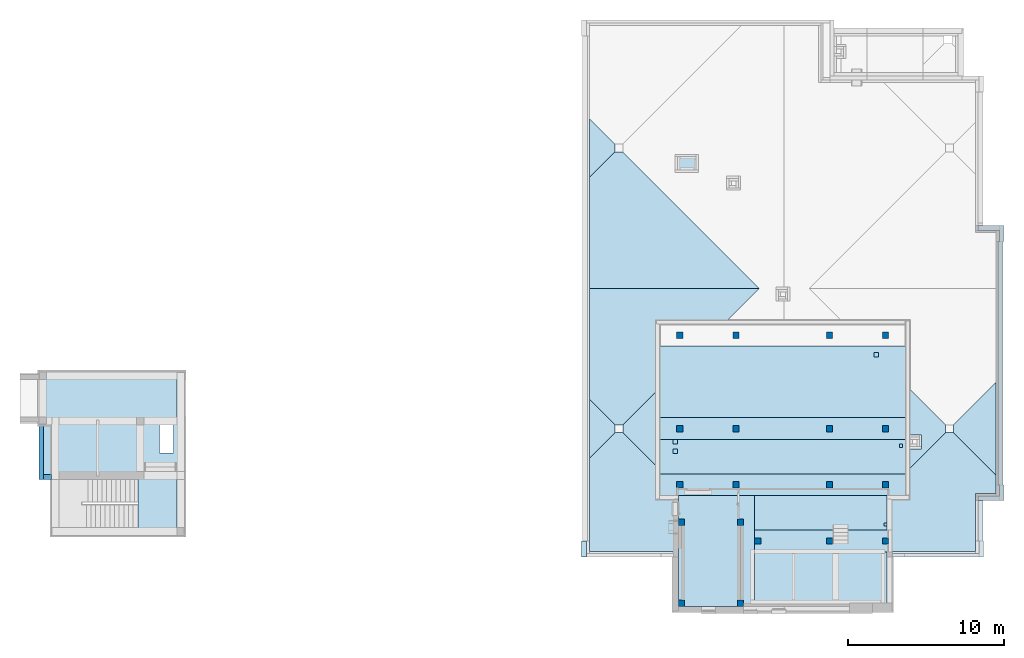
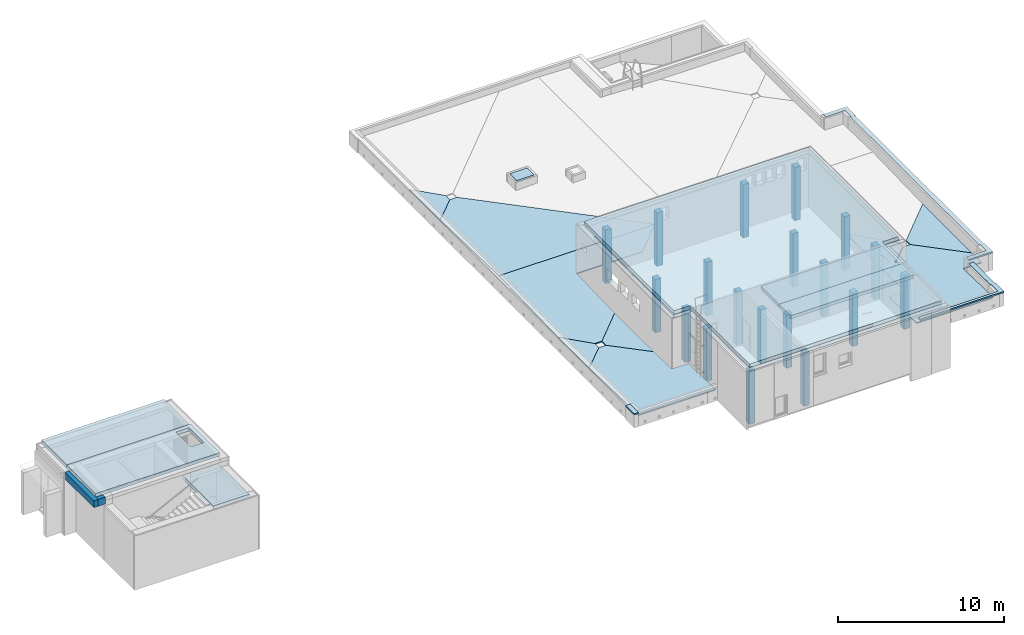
# One storey, part 1 of 17: 26 slabs, 19 columns, 2 beams, 7 openings, 1 element without a shape of its own.
"""IFC4 building model written with IfcOpenShell, lengths in metres."""

from ifc_helpers import new_model, entity, si_unit, converted_unit, derived_unit, frame, frame_2d, origin, origin_with_axes, place, context, subcontext, project, spatial, polyline, rectangle, circle, outline, extrude, material, layer, layer_set, layer_usage, element, aggregate, save


model = new_model("IFC4")

# Units and contexts
model_context = context("Model", 3, precision=1e-05, world=origin())
body_context = subcontext(model_context, "Body", "Model", "MODEL_VIEW")
ifc_project = project(units=[si_unit("LENGTHUNIT", "METRE"), si_unit("AREAUNIT", "SQUARE_METRE"), si_unit("VOLUMEUNIT", "CUBIC_METRE"), si_unit("MASSUNIT", "GRAM", prefix="KILO"), converted_unit("PLANEANGLEUNIT", "DEGREE", entity("IfcPlaneAngleMeasure", 0.0174532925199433), si_unit("PLANEANGLEUNIT", "RADIAN"), dimensions=[0, 0, 0, 0, 0, 0, 0]), derived_unit("THERMALTRANSMITTANCEUNIT", [(si_unit("POWERUNIT", "WATT"), 1), (si_unit("THERMODYNAMICTEMPERATUREUNIT", "KELVIN"), -1), (si_unit("LENGTHUNIT", "METRE"), -2)]), derived_unit("VOLUMETRICFLOWRATEUNIT", [(si_unit("LENGTHUNIT", "METRE"), 3), (converted_unit("TIMEUNIT", "hour", entity("IfcTimeMeasure", 3600.0), si_unit("TIMEUNIT", "SECOND"), dimensions=[0, 0, 1, 0, 0, 0, 0]), -1), (si_unit("LENGTHUNIT", "METRE"), -1)])], contexts=[model_context])

# Site, building, storey
site_placement = place(None, origin())
site = spatial("IfcSite", under=ifc_project, at=site_placement, Name="3. ASŘ", CompositionType="ELEMENT")
building_placement = place(site_placement, origin())
building = spatial("IfcBuilding", under=site, at=building_placement, Name="Pavilon C", CompositionType="ELEMENT")
storey_placement = place(building_placement, frame((0.0, 0.0, 13.8)))
storey = spatial("IfcBuildingStorey", under=building, at=storey_placement, Name="Půdorys 5.NP", CompositionType="ELEMENT", Elevation=13.8)

# Columns
ifc_material_1 = material(Name="ZELEZOBETONOVÁ KCE")
column_1_placement = place(storey_placement, frame((40.55, 0.2, -0.1)))
element("IfcColumn", 1, at=column_1_placement, inside=storey, material=ifc_material_1, PredefinedType="COLUMN", context=body_context, shape_type="SweptSolid", body=[
    extrude(rectangle(XDim=0.4, YDim=0.4, at=frame_2d((-0.2, -0.2), x_axis=(-1.0, 1.4210854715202e-16))), origin_with_axes(), (0.0, 0.0, 1.0), 3.95),
])
ifc_material_2 = material(Name="ZELEZOBETONOVÁ KCE")
column_2_placement = place(storey_placement, frame((35.95, 0.2, -0.1)))
element("IfcColumn", 2, at=column_2_placement, inside=storey, material=ifc_material_2, PredefinedType="COLUMN", context=body_context, shape_type="SweptSolid", body=[
    extrude(rectangle(XDim=0.4, YDim=0.4, at=frame_2d((-0.2, -0.2), x_axis=(-1.0, 1.4210854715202e-16))), origin_with_axes(), (0.0, 0.0, 1.0), 3.95),
])
ifc_material_3 = material(Name="ZELEZOBETONOVÁ KCE")
column_3_placement = place(storey_placement, frame((30.95, 7.4, -0.1)))
element("IfcColumn", 3, at=column_3_placement, inside=storey, material=ifc_material_3, PredefinedType="COLUMN", context=body_context, shape_type="SweptSolid", body=[
    extrude(rectangle(XDim=0.4, YDim=0.4, at=frame_2d((-0.2, -0.2), x_axis=(-1.0, 0.0))), origin_with_axes(), (0.0, 0.0, 1.0), 3.95),
])
ifc_material_4 = material(Name="ZELEZOBETONOVÁ KCE")
column_4_placement = place(storey_placement, frame((34.55, 7.4, -0.1)))
element("IfcColumn", 4, at=column_4_placement, inside=storey, material=ifc_material_4, PredefinedType="COLUMN", context=body_context, shape_type="SweptSolid", body=[
    extrude(rectangle(XDim=0.4, YDim=0.4, at=frame_2d((-0.2, -0.2), x_axis=(-1.0, 0.0))), origin_with_axes(), (0.0, 0.0, 1.0), 3.95),
])
ifc_material_5 = material(Name="ZELEZOBETONOVÁ KCE")
column_5_placement = place(storey_placement, frame((40.55, 7.39999999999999, -0.1)))
element("IfcColumn", 5, at=column_5_placement, inside=storey, material=ifc_material_5, PredefinedType="COLUMN", context=body_context, shape_type="SweptSolid", body=[
    extrude(rectangle(XDim=0.4, YDim=0.4, at=frame_2d((-0.2, -0.2), x_axis=(-1.0, 0.0))), origin_with_axes(), (0.0, 0.0, 1.0), 3.95),
])
ifc_material_6 = material(Name="ZELEZOBETONOVÁ KCE")
column_6_placement = place(storey_placement, frame((44.15, 7.39999999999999, -0.1)))
element("IfcColumn", 6, at=column_6_placement, inside=storey, material=ifc_material_6, PredefinedType="COLUMN", context=body_context, shape_type="SweptSolid", body=[
    extrude(rectangle(XDim=0.4, YDim=0.4, at=frame_2d((-0.2, -0.2), x_axis=(-1.0, 0.0))), origin_with_axes(), (0.0, 0.0, 1.0), 3.95),
])
ifc_material_7 = material(Name="ZELEZOBETONOVÁ KCE")
column_7_placement = place(storey_placement, frame((44.15, 13.4, -0.1)))
element("IfcColumn", 7, at=column_7_placement, inside=storey, material=ifc_material_7, PredefinedType="COLUMN", context=body_context, shape_type="SweptSolid", body=[
    extrude(rectangle(XDim=0.4, YDim=0.4, at=frame_2d((-0.2, -0.2), x_axis=(-1.0, 0.0))), origin_with_axes(), (0.0, 0.0, 1.0), 3.95),
])
ifc_material_8 = material(Name="ZELEZOBETONOVÁ KCE")
column_8_placement = place(storey_placement, frame((40.55, 13.4, -0.1)))
element("IfcColumn", 8, at=column_8_placement, inside=storey, material=ifc_material_8, PredefinedType="COLUMN", context=body_context, shape_type="SweptSolid", body=[
    extrude(rectangle(XDim=0.4, YDim=0.4, at=frame_2d((-0.2, -0.2), x_axis=(-1.0, 0.0))), origin_with_axes(), (0.0, 0.0, 1.0), 3.95),
])
ifc_material_9 = material(Name="ZELEZOBETONOVÁ KCE")
column_9_placement = place(storey_placement, frame((40.55, 3.79999999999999, -0.1)))
element("IfcColumn", 9, at=column_9_placement, inside=storey, material=ifc_material_9, PredefinedType="COLUMN", context=body_context, shape_type="SweptSolid", body=[
    extrude(rectangle(XDim=0.4, YDim=0.4, at=frame_2d((-0.2, -0.2), x_axis=(-1.0, 0.0))), origin_with_axes(), (0.0, 0.0, 1.0), 3.95),
])
ifc_material_10 = material(Name="ZELEZOBETONOVÁ KCE")
column_10_placement = place(storey_placement, frame((44.15, 3.79999999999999, -0.1)))
element("IfcColumn", 10, at=column_10_placement, inside=storey, material=ifc_material_10, PredefinedType="COLUMN", context=body_context, shape_type="SweptSolid", body=[
    extrude(rectangle(XDim=0.4, YDim=0.4, at=frame_2d((-0.2, -0.2), x_axis=(-1.0, 0.0))), origin_with_axes(), (0.0, 0.0, 1.0), 3.95),
])
ifc_material_11 = material(Name="ZELEZOBETONOVÁ KCE")
column_11_placement = place(storey_placement, frame((34.55, 3.8, -0.1)))
element("IfcColumn", 11, at=column_11_placement, inside=storey, material=ifc_material_11, PredefinedType="COLUMN", context=body_context, shape_type="SweptSolid", body=[
    extrude(rectangle(XDim=0.4, YDim=0.4, at=frame_2d((-0.2, -0.2), x_axis=(-1.0, 0.0))), origin_with_axes(), (0.0, 0.0, 1.0), 3.95),
])
ifc_material_12 = material(Name="ZELEZOBETONOVÁ KCE")
column_12_placement = place(storey_placement, frame((30.95, 3.8, -0.1)))
element("IfcColumn", 12, at=column_12_placement, inside=storey, material=ifc_material_12, PredefinedType="COLUMN", context=body_context, shape_type="SweptSolid", body=[
    extrude(rectangle(XDim=0.4, YDim=0.4, at=frame_2d((-0.2, -0.2), x_axis=(-1.0, 0.0))), origin_with_axes(), (0.0, 0.0, 1.0), 3.95),
])
ifc_material_13 = material(Name="ZELEZOBETONOVÁ KCE")
column_13_placement = place(storey_placement, frame((31.05, 1.4, -0.1)))
element("IfcColumn", 13, at=column_13_placement, inside=storey, material=ifc_material_13, PredefinedType="COLUMN", context=body_context, shape_type="SweptSolid", body=[
    extrude(rectangle(XDim=0.4, YDim=0.4, at=frame_2d((-0.2, -0.2), x_axis=(-1.0, 0.0))), origin_with_axes(), (0.0, 0.0, 1.0), 3.95),
])
ifc_material_14 = material(Name="ZELEZOBETONOVÁ KCE")
column_14_placement = place(storey_placement, frame((34.85, 1.4, -0.1)))
element("IfcColumn", 14, at=column_14_placement, inside=storey, material=ifc_material_14, PredefinedType="COLUMN", context=body_context, shape_type="SweptSolid", body=[
    extrude(rectangle(XDim=0.4, YDim=0.4, at=frame_2d((-0.2, -0.2), x_axis=(-1.0, 0.0))), origin_with_axes(), (0.0, 0.0, 1.0), 3.95),
])
ifc_material_15 = material(Name="ZELEZOBETONOVÁ KCE")
column_15_placement = place(storey_placement, frame((31.05, -3.79999999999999, -0.1)))
element("IfcColumn", 15, at=column_15_placement, inside=storey, material=ifc_material_15, PredefinedType="COLUMN", context=body_context, shape_type="SweptSolid", body=[
    extrude(rectangle(XDim=0.4, YDim=0.4, at=frame_2d((-0.2, -0.2), x_axis=(-1.0, 0.0))), origin_with_axes(), (0.0, 0.0, 1.0), 3.95),
])
ifc_material_16 = material(Name="ZELEZOBETONOVÁ KCE")
column_16_placement = place(storey_placement, frame((34.85, -3.79999999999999, -0.1)))
element("IfcColumn", 16, at=column_16_placement, inside=storey, material=ifc_material_16, PredefinedType="COLUMN", context=body_context, shape_type="SweptSolid", body=[
    extrude(rectangle(XDim=0.4, YDim=0.4, at=frame_2d((-0.2, -0.2), x_axis=(-1.0, 0.0))), origin_with_axes(), (0.0, 0.0, 1.0), 3.95),
])
ifc_material_17 = material(Name="ZELEZOBETONOVÁ KCE")
column_17_placement = place(storey_placement, frame((44.15, 0.199999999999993, -0.1)))
element("IfcColumn", 17, at=column_17_placement, inside=storey, material=ifc_material_17, PredefinedType="COLUMN", context=body_context, shape_type="SweptSolid", body=[
    extrude(rectangle(XDim=0.4, YDim=0.4, at=frame_2d((-0.2, -0.2), x_axis=(-1.0, 1.4210854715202e-16))), origin_with_axes(), (0.0, 0.0, 1.0), 3.95),
])
ifc_material_18 = material(Name="ZELEZOBETONOVÁ KCE")
column_18_placement = place(storey_placement, frame((34.55, 13.4, -0.1)))
element("IfcColumn", 18, at=column_18_placement, inside=storey, material=ifc_material_18, PredefinedType="COLUMN", context=body_context, shape_type="SweptSolid", body=[
    extrude(rectangle(XDim=0.4, YDim=0.4, at=frame_2d((-0.2, -0.2), x_axis=(-1.0, 0.0))), origin_with_axes(), (0.0, 0.0, 1.0), 3.95),
])
ifc_material_19 = material(Name="ZELEZOBETONOVÁ KCE")
column_19_placement = place(storey_placement, frame((30.95, 13.4, -0.1)))
element("IfcColumn", 19, at=column_19_placement, inside=storey, material=ifc_material_19, PredefinedType="COLUMN", context=body_context, shape_type="SweptSolid", body=[
    extrude(rectangle(XDim=0.4, YDim=0.4, at=frame_2d((-0.2, -0.2), x_axis=(-1.0, 0.0))), origin_with_axes(), (0.0, 0.0, 1.0), 3.95),
])

# Beams
beam_1_placement = place(storey_placement, frame((-10.075, 3.95, 3.2)))
element("IfcBeam", 20, at=beam_1_placement, inside=storey, PredefinedType="NOTDEFINED", context=body_context, shape_type="SweptSolid", body=[
    extrude(rectangle(XDim=0.3, YDim=0.5, at=frame_2d((0.15, 0.25), x_axis=(1.0, 0.0))), frame((0.0, 0.0, 0.0), z_axis=(1.0, 0.0, 0.0), x_axis=(0.0, 1.0, 0.0)), (0.0, 0.0, 1.0), 0.5),
])
beam_2_placement = place(storey_placement, frame((-10.375, 7.45, 3.2), z_axis=(0.0, 0.0, 1.0), x_axis=(0.0, -1.0, 0.0)))
element("IfcBeam", 21, at=beam_2_placement, inside=storey, PredefinedType="NOTDEFINED", context=body_context, shape_type="SweptSolid", body=[
    extrude(rectangle(XDim=0.3, YDim=0.5, at=frame_2d((0.15, 0.25), x_axis=(1.0, 0.0))), frame((0.0, 0.0, 0.0), z_axis=(1.0, 0.0, 0.0), x_axis=(0.0, 1.0, 0.0)), (0.0, 0.0, 1.0), 3.5),
])

# Slabs
ifc_material_20 = material(Name="RZT")
slab_1_placement = place(storey_placement, frame((35.55, -0.700000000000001, 3.85)))
element("IfcSlab", 22, at=slab_1_placement, inside=storey, material=ifc_material_20, PredefinedType="FLOOR", context=body_context, shape_type="SweptSolid", body=[
    extrude(rectangle(XDim=1.4, YDim=8.6, at=frame_2d((-4.3, 0.700000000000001), x_axis=(0.0, 1.0))), frame((8.6, 0.0, 0.0), z_axis=(0.0, 0.0, 1.0), x_axis=(1.0, 0.0, 0.0)), (0.0, 0.0, 1.0), 0.25),
])
ifc_material_21 = material(Name="PZD")
slab_2_placement = place(storey_placement, frame((35.55, -4.19999999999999, 3.85)))
element("IfcSlab", 23, at=slab_2_placement, inside=storey, material=ifc_material_21, PredefinedType="FLOOR", context=body_context, shape_type="SweptSolid", body=[
    extrude(rectangle(XDim=8.5, YDim=3.49999999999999, at=frame_2d((4.25, 1.75), x_axis=(1.0, 0.0))), origin_with_axes(), (0.0, 0.0, 1.0), 0.25),
])
ifc_material_22 = material(Name="DZH")
slab_3_placement = place(storey_placement, frame((30.65, -4.2, 3.85)))
element("IfcSlab", 24, at=slab_3_placement, inside=storey, material=ifc_material_22, PredefinedType="FLOOR", context=body_context, shape_type="SweptSolid", body=[
    extrude(rectangle(XDim=7.09999999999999, YDim=3.89999999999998, at=frame_2d((-1.94999999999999, 3.54999999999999), x_axis=(0.0, 1.0))), frame((3.89999999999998, 6.3664629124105e-15, 0.0), z_axis=(0.0, 0.0, 1.0), x_axis=(1.0, 0.0, 0.0)), (0.0, 0.0, 1.0), 0.25),
])
ifc_material_23 = material(Name="VĚNEC")
slab_4_placement = place(storey_placement, frame((34.55, -4.19999999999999, 3.85)))
element("IfcSlab", 25, at=slab_4_placement, inside=storey, material=ifc_material_23, PredefinedType="FLOOR", context=body_context, shape_type="SweptSolid", body=[
    extrude(rectangle(XDim=7.09999999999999, YDim=1.00000000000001, at=frame_2d((-0.500000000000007, 3.54999999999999), x_axis=(0.0, 1.0))), frame((1.00000000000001, 1.81898940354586e-15, 0.0), z_axis=(0.0, 0.0, 1.0), x_axis=(1.0, 0.0, 0.0)), (0.0, 0.0, 1.0), 0.25),
])

# Slab, opening
ifc_material_24 = material(Name="PZD")
slab_5_placement = place(storey_placement, frame((29.45, 7.9, 3.85)))
slab_5 = element("IfcSlab", 26, at=slab_5_placement, inside=storey, material=ifc_material_24, PredefinedType="FLOOR", context=body_context, shape_type="SweptSolid", body=[
    extrude(rectangle(XDim=4.6, YDim=15.8, at=frame_2d((-7.9, 2.3), x_axis=(0.0, 1.0))), frame((15.8, 0.0, 0.0), z_axis=(0.0, 0.0, 1.0), x_axis=(1.0, 0.0, 0.0)), (0.0, 0.0, 1.0), 0.25),
])
opening_1_placement = place(slab_5_placement, frame((13.75, 3.9, 0.0)))
element("IfcOpeningElement", 27, at=opening_1_placement, cuts=slab_5, Name="Prostup deskou", ObjectType="Opening", context=body_context, shape_type="SweptSolid", body=[
    extrude(rectangle(XDim=0.3, YDim=0.3, at=frame_2d((7.27595761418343e-15, 0.0), x_axis=(0.0, -1.0))), frame((0.149999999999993, 0.15, 0.0), z_axis=(0.0, 0.0, 1.0), x_axis=(1.0, 0.0, 0.0)), (0.0, 0.0, 1.0), 0.25),
])

ifc_material_25 = material(Name="PZD")
slab_6_placement = place(storey_placement, frame((35.55, 0.699999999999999, 3.85)))
slab_6 = element("IfcSlab", 28, at=slab_6_placement, inside=storey, material=ifc_material_25, PredefinedType="FLOOR", context=body_context, shape_type="SweptSolid", body=[
    extrude(rectangle(XDim=2.2, YDim=8.5, at=frame_2d((-4.25, 1.1), x_axis=(0.0, 1.0))), frame((8.5, 0.0, 0.0), z_axis=(0.0, 0.0, 1.0), x_axis=(1.0, 0.0, 0.0)), (0.0, 0.0, 1.0), 0.25),
])
opening_2_placement = place(slab_6_placement, frame((8.3, 0.249999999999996, 0.0)))
element("IfcOpeningElement", 29, at=opening_2_placement, cuts=slab_6, Name="Prostup deskou", ObjectType="Opening", context=body_context, shape_type="SweptSolid", body=[
    extrude(rectangle(XDim=0.2, YDim=0.2, at=frame_2d((7.27595761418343e-15, 0.0), x_axis=(0.0, -1.0))), frame((0.0999999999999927, 0.1, 0.0), z_axis=(0.0, 0.0, 1.0), x_axis=(1.0, 0.0, 0.0)), (0.0, 0.0, 1.0), 0.25),
])

# Slab
ifc_material_26 = material(Name="RZT")
slab_7_placement = place(storey_placement, frame((29.45, 6.49999999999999, 3.85)))
element("IfcSlab", 30, at=slab_7_placement, inside=storey, material=ifc_material_26, PredefinedType="FLOOR", context=body_context, shape_type="SweptSolid", body=[
    extrude(rectangle(XDim=1.4, YDim=15.8, at=frame_2d((-7.9, 0.700000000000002), x_axis=(0.0, 1.0))), frame((15.8, 0.0, 0.0), z_axis=(0.0, 0.0, 1.0), x_axis=(1.0, 0.0, 0.0)), (0.0, 0.0, 1.0), 0.25),
])

# Slab, openings
ifc_material_27 = material(Name="PZD")
slab_8_placement = place(storey_placement, frame((29.45, 4.3, 3.85)))
slab_8 = element("IfcSlab", 31, at=slab_8_placement, inside=storey, material=ifc_material_27, PredefinedType="FLOOR", context=body_context, shape_type="SweptSolid", body=[
    extrude(rectangle(XDim=2.2, YDim=15.8, at=frame_2d((-7.9, 1.1), x_axis=(0.0, 1.0))), frame((15.8, 9.09494701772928e-16, 0.0), z_axis=(0.0, 0.0, 1.0), x_axis=(1.0, 0.0, 0.0)), (0.0, 0.0, 1.0), 0.25),
])
opening_3_placement = place(slab_8_placement, frame((15.4, 1.7, 0.0)))
element("IfcOpeningElement", 32, at=opening_3_placement, cuts=slab_8, Name="Prostup deskou", ObjectType="Opening", context=body_context, shape_type="SweptSolid", body=[
    extrude(rectangle(XDim=0.2, YDim=0.2, at=frame_2d((7.27595761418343e-15, 9.09494701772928e-16), x_axis=(0.0, -1.0))), frame((0.0999999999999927, 0.0999999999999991, 0.0), z_axis=(0.0, 0.0, 1.0), x_axis=(1.0, 0.0, 0.0)), (0.0, 0.0, 1.0), 0.25),
])
opening_4_placement = place(slab_8_placement, frame((0.85, 1.9, 0.0)))
element("IfcOpeningElement", 33, at=opening_4_placement, cuts=slab_8, Name="Prostup deskou", ObjectType="Opening", context=body_context, shape_type="SweptSolid", body=[
    extrude(rectangle(XDim=0.3, YDim=0.3, at=frame_2d((7.27595761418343e-15, -9.09494701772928e-16), x_axis=(0.0, -1.0))), frame((0.149999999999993, 0.150000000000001, 0.0), z_axis=(0.0, 0.0, 1.0), x_axis=(1.0, 0.0, 0.0)), (0.0, 0.0, 1.0), 0.25),
])
opening_5_placement = place(slab_8_placement, frame((0.85, 1.3, 0.0)))
element("IfcOpeningElement", 34, at=opening_5_placement, cuts=slab_8, Name="Prostup deskou", ObjectType="Opening", context=body_context, shape_type="SweptSolid", body=[
    extrude(rectangle(XDim=0.3, YDim=0.3, at=frame_2d((7.27595761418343e-15, -9.09494701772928e-16), x_axis=(0.0, -1.0))), frame((0.149999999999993, 0.150000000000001, 0.0), z_axis=(0.0, 0.0, 1.0), x_axis=(1.0, 0.0, 0.0)), (0.0, 0.0, 1.0), 0.25),
])

# Slabs
ifc_material_28 = material(Name="ZELEZOBETONOVÁ KCE")
slab_9_placement = place(storey_placement, frame((-4.02489999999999, 0.500000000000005, 2.95)))
element("IfcSlab", 35, at=slab_9_placement, inside=storey, material=ifc_material_28, PredefinedType="FLOOR", context=body_context, shape_type="SweptSolid", body=[
    extrude(rectangle(XDim=2.4999, YDim=3.75, at=frame_2d((1.24995, 1.875), x_axis=(1.0, 0.0))), origin_with_axes(), (0.0, 0.0, 1.0), 0.25),
])
ifc_material_29 = material(Name="ZELEZOBETONOVÁ KCE")
slab_10_placement = place(storey_placement, frame((-10.075, 7.75, 3.7)))
element("IfcSlab", 36, at=slab_10_placement, inside=storey, material=ifc_material_29, PredefinedType="FLOOR", context=body_context, shape_type="SweptSolid", body=[
    extrude(rectangle(XDim=8.54999999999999, YDim=3.05000000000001, at=frame_2d((4.275, 1.525), x_axis=(1.0, 0.0))), origin_with_axes(), (0.0, 0.0, 1.0), 0.25),
])

# Slab, opening
ifc_material_30 = material(Name="ZELEZOBETONOVÁ KCE")
slab_11_placement = place(storey_placement, frame((-10.075, 4.25, 3.7)))
slab_11 = element("IfcSlab", 37, at=slab_11_placement, inside=storey, material=ifc_material_30, PredefinedType="FLOOR", context=body_context, shape_type="SweptSolid", body=[
    extrude(rectangle(XDim=8.64999999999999, YDim=3.5, at=frame_2d((-4.325, -1.75), x_axis=(-1.0, 0.0))), frame((8.64999999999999, 3.5, 0.0), z_axis=(0.0, 0.0, 1.0), x_axis=(1.0, 0.0, 0.0)), (0.0, 0.0, 1.0), 0.25),
])
opening_6_placement = place(slab_11_placement, frame((7.44999999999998, 1.4, 0.0)))
element("IfcOpeningElement", 38, at=opening_6_placement, cuts=slab_11, Name="Prostup deskou", ObjectType="Opening", context=body_context, shape_type="SweptSolid", body=[
    extrude(rectangle(XDim=1.8, YDim=0.9, at=frame_2d((-2.27373675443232e-16, -9.09494701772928e-16), x_axis=(0.0, -1.0))), frame((0.45, 0.900000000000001, 0.0), z_axis=(0.0, 0.0, 1.0), x_axis=(1.0, 0.0, 0.0)), (0.0, 0.0, 1.0), 0.25),
])

ifc_material_31 = material(Name="RZT")
slab_12_placement = place(storey_placement, frame((29.45, 2.89999999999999, 3.85)))
slab_12 = element("IfcSlab", 39, at=slab_12_placement, inside=storey, material=ifc_material_31, PredefinedType="FLOOR", context=body_context, shape_type="SweptSolid", body=[
    extrude(rectangle(XDim=1.4, YDim=15.8, at=frame_2d((-7.9, 0.700000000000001), x_axis=(0.0, 1.0))), frame((15.8, 0.0, 0.0), z_axis=(0.0, 0.0, 1.0), x_axis=(1.0, 0.0, 0.0)), (0.0, 0.0, 1.0), 0.25),
])
opening_7_placement = place(slab_12_placement, frame((10.3253095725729, 0.625309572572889, 0.286060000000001)))
element("IfcOpeningElement", 40, at=opening_7_placement, cuts=slab_12, Name="Prostup deskou", ObjectType="Opening", context=body_context, shape_type="SweptSolid", body=[
    extrude(circle(Radius=0.0750000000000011, at=frame_2d((7.27595761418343e-15, 0.0), x_axis=(1.0, 0.0))), frame((0.0746904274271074, 0.0746904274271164, 0.0), z_axis=(0.0, 0.0, 1.0), x_axis=(1.0, 0.0, 0.0)), (0.0, 0.0, 1.0), 0.00240000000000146),
])

# Roof, slabs
roof_placement = place(storey_placement, frame((0.0, 0.0, -13.8)))
roof = element("IfcRoof", 41, at=roof_placement, inside=storey, PredefinedType="NOTDEFINED")
ifc_material_32 = material(Name="ASFALTOVÁ HYDROIZOLACE")
ifc_layer_1 = layer(ifc_material_32, 0.01)
ifc_material_33 = material(Name="KAČÍREK")
ifc_layer_2 = layer(ifc_material_33, 0.06)
ifc_layer_set_1 = layer_set([ifc_layer_1, ifc_layer_2])
ifc_layer_usage_1 = layer_usage(ifc_layer_set_1, "AXIS3", "POSITIVE", 0.0)
slab_13_placement = place(roof_placement, frame((24.97, 5.32999999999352, 13.98)))
slab_13 = element("IfcSlab", 42, at=slab_13_placement, material=ifc_layer_usage_1, PredefinedType="ROOF", context=body_context, shape_type="SweptSolid", body=[
    extrude(outline(polyline([(-1.87000000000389, -0.810364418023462), (1.87000000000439, -0.810364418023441), (0.249999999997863, 0.810364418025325), (-0.249999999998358, 0.810364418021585), (-1.87000000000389, -0.810364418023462)])), frame((0.809999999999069, 1.87000000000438, 0.0243000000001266), z_axis=(0.0299865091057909, -2.14142305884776e-16, 0.999550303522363), x_axis=(-7.14128827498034e-15, -1.0, 0.0)), (0.0, -0.0299865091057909, 0.999550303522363), 0.0700314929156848),
])
ifc_material_34 = material(Name="ASFALTOVÁ HYDROIZOLACE")
ifc_layer_3 = layer(ifc_material_34, 0.01)
ifc_material_35 = material(Name="KAČÍREK")
ifc_layer_4 = layer(ifc_material_35, 0.06)
ifc_layer_set_2 = layer_set([ifc_layer_3, ifc_layer_4])
ifc_layer_usage_2 = layer_usage(ifc_layer_set_2, "AXIS3", "POSITIVE", 0.0)
slab_14_placement = place(roof_placement, frame((24.97, 7.44999999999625, 13.9800000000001)))
slab_14 = element("IfcSlab", 43, at=slab_14_placement, material=ifc_layer_usage_2, PredefinedType="ROOF", context=body_context, shape_type="SweptSolid", body=[
    extrude(outline(polyline([(-0.243750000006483, 2.21974821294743), (-0.243750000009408, -2.3723168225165), (-4.83374999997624, -2.37231682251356), (-6.88374999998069, -4.42323911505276), (3.98624999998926, -4.42323911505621), (3.98624999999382, 2.70996866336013), (2.36624999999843, 4.33069749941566), (1.86624999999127, 4.33069749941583), (-0.243750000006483, 2.21974821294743)])), frame((3.98624999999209, 4.328750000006, 0.129862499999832), z_axis=(1.91852738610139e-14, -0.0299865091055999, 0.999550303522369), x_axis=(-1.0, -6.39796843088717e-13, 0.0)), (0.0, -0.0299865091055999, 0.999550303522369), 0.0700314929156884),
])
ifc_material_36 = material(Name="ASFALTOVÁ HYDROIZOLACE")
ifc_layer_5 = layer(ifc_material_36, 0.01)
ifc_material_37 = material(Name="KAČÍREK")
ifc_layer_6 = layer(ifc_material_37, 0.06)
ifc_layer_set_3 = layer_set([ifc_layer_5, ifc_layer_6])
ifc_layer_usage_3 = layer_usage(ifc_layer_set_3, "AXIS3", "POSITIVE", 0.0)
slab_15_placement = place(roof_placement, frame((27.09, 4.83999999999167, 13.98)))
slab_15 = element("IfcSlab", 44, at=slab_15_placement, material=ifc_layer_usage_3, PredefinedType="ROOF", context=body_context, shape_type="SweptSolid", body=[
    extrude(outline(polyline([(-2.36000000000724, -1.05547464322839), (2.36000000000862, -1.05547464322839), (0.249999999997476, 1.05547464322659), (-0.249999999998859, 1.05547464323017), (-2.36000000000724, -1.05547464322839)])), frame((1.05500000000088, 2.36000000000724, 0.0316500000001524), z_axis=(-0.0299865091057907, 1.35691825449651e-17, 0.999550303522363), x_axis=(4.52509576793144e-16, 1.0, 0.0)), (0.0, -0.0299865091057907, 0.999550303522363), 0.0700314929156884),
])
ifc_material_38 = material(Name="ASFALTOVÁ HYDROIZOLACE")
ifc_layer_7 = layer(ifc_material_38, 0.01)
ifc_material_39 = material(Name="KAČÍREK")
ifc_layer_8 = layer(ifc_material_39, 0.06)
ifc_layer_set_4 = layer_set([ifc_layer_7, ifc_layer_8])
ifc_layer_usage_4 = layer_usage(ifc_layer_set_4, "AXIS3", "POSITIVE", 0.0)
slab_16_placement = place(roof_placement, frame((24.97, -0.670000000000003, 13.98)))
slab_16 = element("IfcSlab", 45, at=slab_16_placement, material=ifc_layer_usage_4, PredefinedType="ROOF", context=body_context, shape_type="SweptSolid", body=[
    extrude(outline(polyline([(-2.87000000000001, 1.82707162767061), (-2.87000000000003, -4.175627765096), (2.50999999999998, -4.17562776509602), (2.50999999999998, -0.854134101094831), (1.35999999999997, -0.854134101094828), (1.35999999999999, 1.33685117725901), (-0.749999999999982, 3.44780046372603), (-1.24999999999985, 3.44780046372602), (-2.87000000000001, 1.82707162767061)])), frame((2.87000000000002, 4.17374999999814, 0.103387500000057), z_axis=(-8.24895634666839e-17, 0.0299865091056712, 0.999550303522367), x_axis=(1.0, 2.75088918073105e-15, 0.0)), (0.0, -0.0299865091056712, 0.999550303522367), 0.0700314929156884),
])
ifc_material_40 = material(Name="ASFALTOVÁ HYDROIZOLACE")
ifc_layer_9 = layer(ifc_material_40, 0.01)
ifc_material_41 = material(Name="KAČÍREK")
ifc_layer_10 = layer(ifc_material_41, 0.06)
ifc_layer_set_5 = layer_set([ifc_layer_9, ifc_layer_10])
ifc_layer_usage_5 = layer_usage(ifc_layer_set_5, "AXIS3", "POSITIVE", 0.0)
slab_17_placement = place(roof_placement, frame((45.5, 4.63999999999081, 13.98)))
slab_17 = element("IfcSlab", 46, at=slab_17_placement, material=ifc_layer_usage_5, PredefinedType="ROOF", context=body_context, shape_type="SweptSolid", body=[
    extrude(outline(polyline([(-2.98500000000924, -0.770346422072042), (-0.0250000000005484, -0.770346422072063), (-0.025000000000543, 5.16592990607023e-13), (0.874999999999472, 5.0931703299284e-13), (0.874999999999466, -0.770346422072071), (2.13500000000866, -0.770346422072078), (-0.175000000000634, 1.54069284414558), (-0.674999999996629, 1.54069284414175), (-2.98500000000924, -0.770346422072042)])), frame((0.769999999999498, 2.13500000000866, 0.046200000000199), z_axis=(0.029986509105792, 2.16462982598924e-16, 0.999550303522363), x_axis=(7.21867896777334e-15, -1.0, 0.0)), (0.0, -0.029986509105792, 0.999550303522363), 0.0700314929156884),
])
ifc_material_42 = material(Name="ASFALTOVÁ HYDROIZOLACE")
ifc_layer_11 = layer(ifc_material_42, 0.01)
ifc_material_43 = material(Name="KAČÍREK")
ifc_layer_12 = layer(ifc_material_43, 0.06)
ifc_layer_set_6 = layer_set([ifc_layer_11, ifc_layer_12])
ifc_layer_usage_6 = layer_usage(ifc_layer_set_6, "AXIS3", "POSITIVE", 0.0)
slab_18_placement = place(roof_placement, frame((48.3100000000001, 4.22999999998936, 13.98)))
slab_18 = element("IfcSlab", 47, at=slab_18_placement, material=ifc_layer_usage_6, PredefinedType="ROOF", context=body_context, shape_type="SweptSolid", body=[
    extrude(outline(polyline([(-2.970000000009, -1.36061186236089), (2.9700000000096, -1.36061186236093), (0.249999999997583, 1.36061186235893), (-0.249999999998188, 1.36061186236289), (-2.970000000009, -1.36061186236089)])), frame((1.36000000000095, 2.97000000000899, 0.0408000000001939), z_axis=(-0.0299865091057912, -1.68564484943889e-16, 0.999550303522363), x_axis=(-5.62134406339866e-15, 1.0, 0.0)), (0.0, -0.0299865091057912, 0.999550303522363), 0.0700314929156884),
])
ifc_material_44 = material(Name="ASFALTOVÁ HYDROIZOLACE")
ifc_layer_13 = layer(ifc_material_44, 0.01)
ifc_material_45 = material(Name="KAČÍREK")
ifc_layer_14 = layer(ifc_material_45, 0.06)
ifc_layer_set_7 = layer_set([ifc_layer_13, ifc_layer_14])
ifc_layer_usage_7 = layer_usage(ifc_layer_set_7, "AXIS3", "POSITIVE", 0.0)
slab_19_placement = place(roof_placement, frame((44.35, -0.670000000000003, 13.98)))
slab_19 = element("IfcSlab", 48, at=slab_19_placement, material=ifc_layer_usage_7, PredefinedType="ROOF", context=body_context, shape_type="SweptSolid", body=[
    extrude(outline(polyline([(-2.23399999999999, 1.36161231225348), (-2.23400000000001, -0.629282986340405), (-3.38399999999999, -0.629282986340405), (-3.38399999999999, -3.95077665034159), (1.99600000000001, -3.95077665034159), (1.99600000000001, -0.249112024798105), (3.29600000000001, -0.249112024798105), (3.29600000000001, 0.951427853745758), (0.57600000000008, 3.67265157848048), (0.0759999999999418, 3.67265157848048), (-2.23399999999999, 1.36161231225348)])), frame((3.38399999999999, 3.94899999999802, 0.110130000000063), z_axis=(1.07426553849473e-17, 0.0299865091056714, 0.999550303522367), x_axis=(1.0, -3.58249616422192e-16, 0.0)), (0.0, -0.0299865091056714, 0.999550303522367), 0.0700314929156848),
])
ifc_material_46 = material(Name="ASFALTOVÁ HYDROIZOLACE")
ifc_layer_15 = layer(ifc_material_46, 0.01)
ifc_material_47 = material(Name="KAČÍREK")
ifc_layer_16 = layer(ifc_material_47, 0.06)
ifc_layer_set_8 = layer_set([ifc_layer_15, ifc_layer_16])
ifc_layer_usage_8 = layer_usage(ifc_layer_set_8, "AXIS3", "POSITIVE", 0.0)
slab_20_placement = place(roof_placement, frame((24.97, 23.33, 13.98)))
slab_20 = element("IfcSlab", 49, at=slab_20_placement, material=ifc_layer_usage_8, PredefinedType="ROOF", context=body_context, shape_type="SweptSolid", body=[
    extrude(outline(polyline([(-1.86999999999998, -0.810364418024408), (1.86999999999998, -0.810364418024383), (0.250000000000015, 0.810364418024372), (-0.250000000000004, 0.810364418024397), (-1.86999999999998, -0.810364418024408)])), frame((0.810000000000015, 1.86999999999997, 0.0243000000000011), z_axis=(0.0299865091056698, -2.31188986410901e-16, 0.999550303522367), x_axis=(-7.7097666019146e-15, -1.0, 0.0)), (0.0, -0.0299865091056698, 0.999550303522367), 0.070031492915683),
])
ifc_material_48 = material(Name="ASFALTOVÁ HYDROIZOLACE")
ifc_layer_17 = layer(ifc_material_48, 0.01)
ifc_material_49 = material(Name="KAČÍREK")
ifc_layer_18 = layer(ifc_material_49, 0.06)
ifc_layer_set_9 = layer_set([ifc_layer_17, ifc_layer_18])
ifc_layer_usage_9 = layer_usage(ifc_layer_set_9, "AXIS3", "POSITIVE", 0.0)
slab_21_placement = place(roof_placement, frame((24.97, 16.2000000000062, 13.98)))
slab_21 = element("IfcSlab", 50, at=slab_21_placement, material=ifc_layer_usage_9, PredefinedType="ROOF", context=body_context, shape_type="SweptSolid", body=[
    extrude(outline(polyline([(-2.92199999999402, 2.20499157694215), (-2.92199999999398, -4.92821620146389), (7.94799999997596, -4.92821620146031), (-0.801999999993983, 3.82572041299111), (-1.30199999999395, 3.82572041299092), (-2.92199999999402, 2.20499157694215)])), frame((2.92199999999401, 4.92599999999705, 0.11471999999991), z_axis=(1.94383271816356e-16, 0.029986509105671, 0.999550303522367), x_axis=(1.0, -6.48235748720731e-15, 0.0)), (0.0, -0.029986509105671, 0.999550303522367), 0.0700314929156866),
])
aggregate(roof, [slab_13, slab_14, slab_15, slab_16, slab_17, slab_18, slab_19, slab_20, slab_21])

# Slabs
ifc_material_50 = material(Name="MINERÁLNÍ VATA")
slab_22_placement = place(storey_placement, frame((44.4, -1.02000000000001, 0.85)))
element("IfcSlab", 51, at=slab_22_placement, inside=storey, material=ifc_material_50, PredefinedType="FLOOR", context=body_context, shape_type="SweptSolid", body=[
    extrude(outline(polyline([(0.0, 0.200000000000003), (0.0, 2.8421709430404e-15), (5.85, 0.0), (5.85, 1.02), (5.8, 1.02), (5.8, 3.6), (5.48, 3.6), (5.48, 1.02), (5.55, 1.02), (5.55, 0.200000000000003), (0.0, 0.200000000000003)])), origin_with_axes(), (0.0, 0.0, 1.0), 0.1),
])
ifc_material_51 = material(Name="MINERÁLNÍ VATA")
slab_23_placement = place(storey_placement, frame((30.6, 23.8, 0.85)))
element("IfcSlab", 52, at=slab_23_placement, inside=storey, material=ifc_material_51, PredefinedType="FLOOR", context=body_context, shape_type="SweptSolid", body=[
    extrude(rectangle(XDim=1.20000000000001, YDim=0.85, at=frame_2d((0.600000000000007, 0.425), x_axis=(1.0, 0.0))), origin_with_axes(), (0.0, 0.0, 1.0), 0.1),
])
ifc_material_52 = material(Name="MINERÁLNÍ VATA")
slab_24_placement = place(storey_placement, frame((49.88, 2.57999999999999, 1.15)))
element("IfcSlab", 53, at=slab_24_placement, inside=storey, material=ifc_material_52, PredefinedType="FLOOR", context=body_context, shape_type="SweptSolid", body=[
    extrude(outline(polyline([(1.37, 17.34), (1.37, 16.62), (1.3, 16.62), (1.3, 1.02), (1.37, 1.02), (1.37, 0.3), (0.0, 0.3), (0.0, 0.0), (1.67, 0.0), (1.67, 1.02), (1.62, 1.02), (1.62, 16.62), (1.67, 16.62), (1.67, 17.64), (0.0, 17.64), (0.0, 17.34), (1.37, 17.34)])), origin_with_axes(), (0.0, 0.0, 1.0), 0.1),
])
ifc_material_53 = material(Name="MINERÁLNÍ VATA")
slab_25_placement = place(storey_placement, frame((24.45, -1.02, 0.85)))
element("IfcSlab", 54, at=slab_25_placement, inside=storey, material=ifc_material_53, PredefinedType="FLOOR", context=body_context, shape_type="SweptSolid", body=[
    extrude(rectangle(XDim=0.3, YDim=1.02, at=frame_2d((0.15, 0.509999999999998), x_axis=(1.0, -9.09494701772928e-15))), frame((0.0, 2.72848410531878e-15, 0.0), z_axis=(0.0, 0.0, 1.0), x_axis=(1.0, 0.0, 0.0)), (0.0, 0.0, 1.0), 0.1),
])
ifc_material_54 = material(Name="PIR")
slab_26_placement = place(storey_placement, frame((29.52, -4.2, 4.1)))
element("IfcSlab", 55, at=slab_26_placement, inside=storey, material=ifc_material_54, PredefinedType="FLOOR", context=body_context, shape_type="SweptSolid", body=[
    extrude(outline(polyline([(0.0, 7.15), (1.13, 7.15), (1.13, 0.0), (14.53, 0.0), (14.53, 7.15), (15.66, 7.15), (15.66, 18.03), (0.0, 18.03), (0.0, 7.15)])), origin_with_axes(), (0.0, 0.0, 1.0), 0.26),
])

save(model, "model.ifc")
